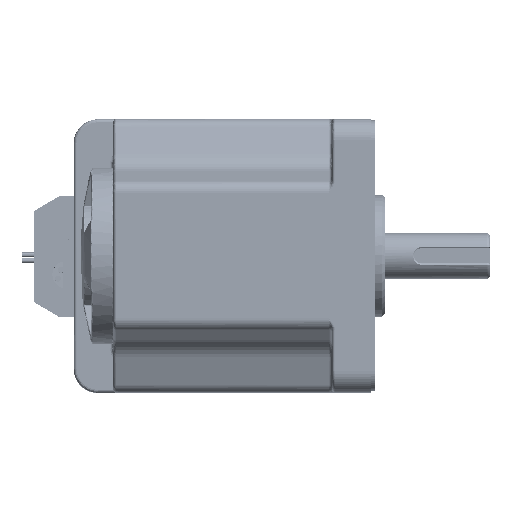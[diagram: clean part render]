
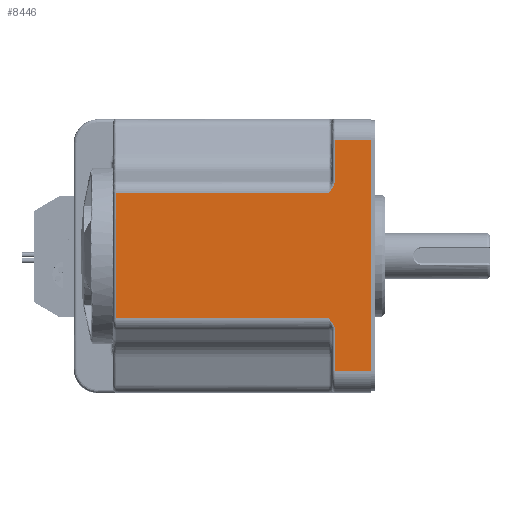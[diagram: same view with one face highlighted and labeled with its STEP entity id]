
A CAD part, top view. The second image highlights one B-rep face of the part: STEP entity #8446.
In plain terms, the highlighted planar face has unit normal (0, 0, 1).
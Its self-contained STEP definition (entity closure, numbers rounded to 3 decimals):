
#4669=PLANE('',#73081);
#8446=ADVANCED_FACE('NONE',(#14811),#4669,.T.);
#14811=FACE_OUTER_BOUND('',#19251,.T.);
#19251=EDGE_LOOP('',(#39274,#39275,#39276,#39277,#39278,#39279,#39280,#39281,
#39282,#39283));
#39274=ORIENTED_EDGE('',*,*,#59085,.T.);
#39275=ORIENTED_EDGE('',*,*,#59076,.T.);
#39276=ORIENTED_EDGE('',*,*,#59070,.T.);
#39277=ORIENTED_EDGE('',*,*,#59116,.T.);
#39278=ORIENTED_EDGE('',*,*,#59072,.T.);
#39279=ORIENTED_EDGE('',*,*,#59075,.T.);
#39280=ORIENTED_EDGE('',*,*,#57872,.T.);
#39281=ORIENTED_EDGE('',*,*,#59237,.T.);
#39282=ORIENTED_EDGE('',*,*,#59262,.T.);
#39283=ORIENTED_EDGE('',*,*,#59263,.F.);
#47789=VERTEX_POINT('',#389576);
#47791=VERTEX_POINT('',#389582);
#48439=VERTEX_POINT('',#403157);
#48440=VERTEX_POINT('',#403182);
#48507=VERTEX_POINT('',#404257);
#48508=VERTEX_POINT('',#404267);
#48509=VERTEX_POINT('',#404376);
#48514=VERTEX_POINT('',#404503);
#48595=VERTEX_POINT('',#406567);
#48609=VERTEX_POINT('',#406730);
#57872=EDGE_CURVE('',#47789,#47791,#67393,.T.);
#59070=EDGE_CURVE('',#48440,#48507,#68498,.T.);
#59072=EDGE_CURVE('',#48508,#48439,#68499,.T.);
#59075=EDGE_CURVE('',#48439,#47789,#68501,.T.);
#59076=EDGE_CURVE('',#48509,#48440,#68502,.T.);
#59085=EDGE_CURVE('',#48514,#48509,#68507,.T.);
#59116=EDGE_CURVE('',#48507,#48508,#68532,.T.);
#59237=EDGE_CURVE('',#47791,#48595,#68635,.T.);
#59262=EDGE_CURVE('',#48595,#48609,#68659,.T.);
#59263=EDGE_CURVE('',#48514,#48609,#68660,.T.);
#67393=B_SPLINE_CURVE_WITH_KNOTS('',3,(#389583,#389584,#389585,#389586),
 .UNSPECIFIED.,.F.,.F.,(4,4),(0.,1.),.UNSPECIFIED.);
#68498=B_SPLINE_CURVE_WITH_KNOTS('',3,(#404253,#404254,#404255,#404256),
 .UNSPECIFIED.,.F.,.F.,(4,4),(0.,1.),.UNSPECIFIED.);
#68499=B_SPLINE_CURVE_WITH_KNOTS('',3,(#404263,#404264,#404265,#404266),
 .UNSPECIFIED.,.F.,.F.,(4,4),(0.,1.),.UNSPECIFIED.);
#68501=B_SPLINE_CURVE_WITH_KNOTS('',3,(#404277,#404278,#404279,#404280,
#404281,#404282,#404283,#404284,#404285,#404286,#404287,#404288,#404289),
 .UNSPECIFIED.,.F.,.F.,(4,1,2,2,2,2,4),(0.,0.125,0.187,
0.25,0.375,0.5,1.),.UNSPECIFIED.);
#68502=B_SPLINE_CURVE_WITH_KNOTS('',3,(#404368,#404369,#404370,#404371,
#404372,#404373,#404374,#404375),.UNSPECIFIED.,.F.,.F.,(4,2,2,4),(0.,0.25,
0.5,1.),.UNSPECIFIED.);
#68507=B_SPLINE_CURVE_WITH_KNOTS('',3,(#404508,#404509,#404510,#404511),
 .UNSPECIFIED.,.F.,.F.,(4,4),(0.,1.),.UNSPECIFIED.);
#68532=B_SPLINE_CURVE_WITH_KNOTS('',3,(#404806,#404807,#404808,#404809),
 .UNSPECIFIED.,.F.,.F.,(4,4),(0.,1.),.UNSPECIFIED.);
#68635=B_SPLINE_CURVE_WITH_KNOTS('',3,(#406568,#406569,#406570,#406571),
 .UNSPECIFIED.,.F.,.F.,(4,4),(0.,1.),.UNSPECIFIED.);
#68659=B_SPLINE_CURVE_WITH_KNOTS('',3,(#406726,#406727,#406728,#406729),
 .UNSPECIFIED.,.F.,.F.,(4,4),(0.,1.),.UNSPECIFIED.);
#68660=B_SPLINE_CURVE_WITH_KNOTS('',3,(#406731,#406732,#406733,#406734),
 .UNSPECIFIED.,.F.,.F.,(4,4),(0.,1.),.UNSPECIFIED.);
#73081=AXIS2_PLACEMENT_3D('',#406735,#79712,#79713);
#79712=DIRECTION('',(0.,0.,1.));
#79713=DIRECTION('',(0.,1.,0.));
#389576=CARTESIAN_POINT('',(44.658,-27.531,145.8));
#389582=CARTESIAN_POINT('',(44.656,-40.836,145.8));
#389583=CARTESIAN_POINT('',(44.658,-27.531,145.8));
#389584=CARTESIAN_POINT('',(44.657,-31.966,145.8));
#389585=CARTESIAN_POINT('',(44.657,-36.401,145.8));
#389586=CARTESIAN_POINT('',(44.656,-40.836,145.8));
#403157=CARTESIAN_POINT('',(42.656,-23.531,145.8));
#403182=CARTESIAN_POINT('',(42.656,17.86,145.8));
#404253=CARTESIAN_POINT('',(42.656,17.86,145.8));
#404254=CARTESIAN_POINT('',(19.323,17.86,145.8));
#404255=CARTESIAN_POINT('',(-4.01,17.86,145.8));
#404256=CARTESIAN_POINT('',(-27.344,17.86,145.8));
#404257=CARTESIAN_POINT('',(-27.344,17.86,145.8));
#404263=CARTESIAN_POINT('',(-27.344,-23.531,145.8));
#404264=CARTESIAN_POINT('',(-4.01,-23.531,145.8));
#404265=CARTESIAN_POINT('',(19.323,-23.531,145.8));
#404266=CARTESIAN_POINT('',(42.656,-23.531,145.8));
#404267=CARTESIAN_POINT('',(-27.344,-23.531,145.8));
#404277=CARTESIAN_POINT('',(42.656,-23.531,145.8));
#404278=CARTESIAN_POINT('',(42.817,-23.728,145.8));
#404279=CARTESIAN_POINT('',(43.027,-23.987,145.8));
#404280=CARTESIAN_POINT('',(43.189,-24.192,145.8));
#404281=CARTESIAN_POINT('',(43.286,-24.317,145.8));
#404282=CARTESIAN_POINT('',(43.304,-24.34,145.8));
#404283=CARTESIAN_POINT('',(43.495,-24.594,145.8));
#404284=CARTESIAN_POINT('',(43.612,-24.757,145.8));
#404285=CARTESIAN_POINT('',(43.824,-25.073,145.8));
#404286=CARTESIAN_POINT('',(43.902,-25.196,145.8));
#404287=CARTESIAN_POINT('',(44.41,-26.076,145.8));
#404288=CARTESIAN_POINT('',(44.657,-26.761,145.8));
#404289=CARTESIAN_POINT('',(44.658,-27.531,145.8));
#404368=CARTESIAN_POINT('',(44.656,21.86,145.8));
#404369=CARTESIAN_POINT('',(44.645,21.554,145.8));
#404370=CARTESIAN_POINT('',(44.597,21.251,145.8));
#404371=CARTESIAN_POINT('',(44.403,20.552,145.8));
#404372=CARTESIAN_POINT('',(44.254,20.183,145.8));
#404373=CARTESIAN_POINT('',(43.801,19.313,145.8));
#404374=CARTESIAN_POINT('',(43.209,18.501,145.8));
#404375=CARTESIAN_POINT('',(42.656,17.86,145.8));
#404376=CARTESIAN_POINT('',(44.656,21.86,145.8));
#404503=CARTESIAN_POINT('',(44.656,35.164,145.8));
#404508=CARTESIAN_POINT('',(44.656,35.164,145.8));
#404509=CARTESIAN_POINT('',(44.656,30.729,145.8));
#404510=CARTESIAN_POINT('',(44.656,26.294,145.8));
#404511=CARTESIAN_POINT('',(44.656,21.86,145.8));
#404806=CARTESIAN_POINT('',(-27.344,17.86,145.8));
#404807=CARTESIAN_POINT('',(-27.344,4.063,145.8));
#404808=CARTESIAN_POINT('',(-27.344,-9.734,145.8));
#404809=CARTESIAN_POINT('',(-27.344,-23.531,145.8));
#406567=CARTESIAN_POINT('',(56.656,-40.836,145.8));
#406568=CARTESIAN_POINT('',(44.656,-40.836,145.8));
#406569=CARTESIAN_POINT('',(48.656,-40.836,145.8));
#406570=CARTESIAN_POINT('',(52.656,-40.836,145.8));
#406571=CARTESIAN_POINT('',(56.656,-40.836,145.8));
#406726=CARTESIAN_POINT('',(56.656,-40.836,145.8));
#406727=CARTESIAN_POINT('',(56.656,-15.502,145.8));
#406728=CARTESIAN_POINT('',(56.656,9.831,145.8));
#406729=CARTESIAN_POINT('',(56.656,35.164,145.8));
#406730=CARTESIAN_POINT('',(56.656,35.164,145.8));
#406731=CARTESIAN_POINT('',(44.656,35.164,145.8));
#406732=CARTESIAN_POINT('',(48.656,35.164,145.8));
#406733=CARTESIAN_POINT('',(52.656,35.164,145.8));
#406734=CARTESIAN_POINT('',(56.656,35.164,145.8));
#406735=CARTESIAN_POINT('',(14.656,-2.836,145.8));
